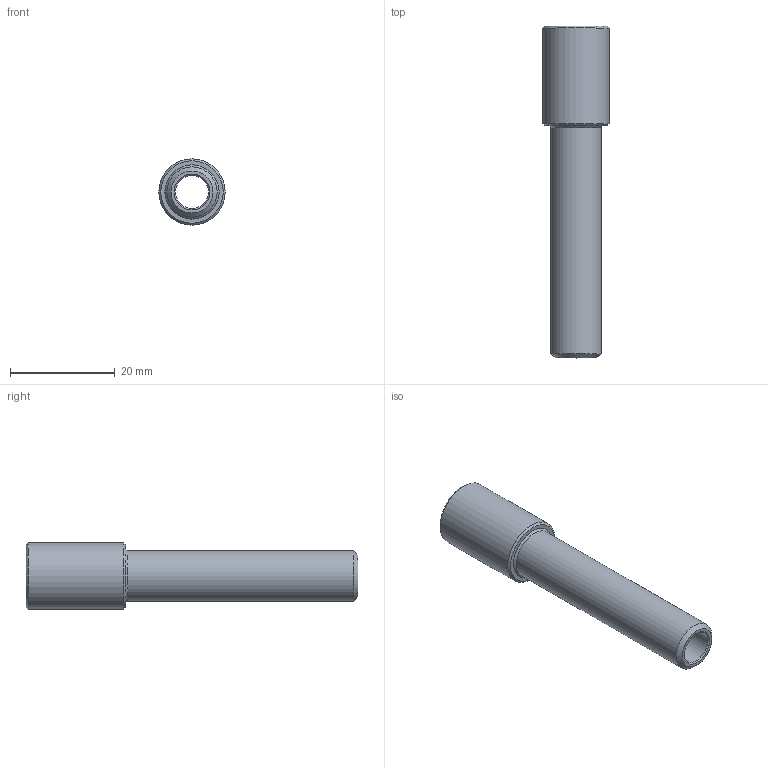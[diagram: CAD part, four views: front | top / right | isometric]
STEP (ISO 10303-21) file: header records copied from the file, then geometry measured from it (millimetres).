
FILE_DESCRIPTION(/* description */ (''),/* implementation_level */ '2;1');
FILE_NAME(/* name */ 'C:/Users/drich/Desktop/EP18X2-1_2 v1.step',/* time_stamp */ '2019-11-18T15:03:45-06:00',/* author */ (''),/* organization */ (''),/* preprocessor_version */ 'ST-DEVELOPER v18',/* originating_system */ 'Autodesk Translation Framework v8.12.0.6',/* authorisation */ '');
FILE_SCHEMA (('AUTOMOTIVE_DESIGN { 1 0 10303 214 3 1 1 }'));
Length unit declared in the file: inch
Products named in the file (2): EP18X2-1_2; EP18X2.5
Assembly tree (1 placements, depth 2):
  EP18X2-1_2
    EP18X2.5
Bounding box: 12.7 x 63.5 x 12.7 mm (x, y, z)
Volume: 3270.6 mm3; surface area: 3613.3 mm2
Topology: 1 solids, 1 shells, 23 faces, 55 edges, 37 vertices
Faces by surface type: plane 11, cone 7, cylinder 5
Full cylindrical faces by diameter (mm): 6.35 x1, 7.62 x1, 8.707 x1, 9.621 x1, 12.7 x1
Entity records: 740 total; most frequent: CARTESIAN_POINT 132, DIRECTION 124, ORIENTED_EDGE 110, EDGE_CURVE 55, AXIS2_PLACEMENT_3D 50, VERTEX_POINT 37, EDGE_LOOP 28, LINE 24
